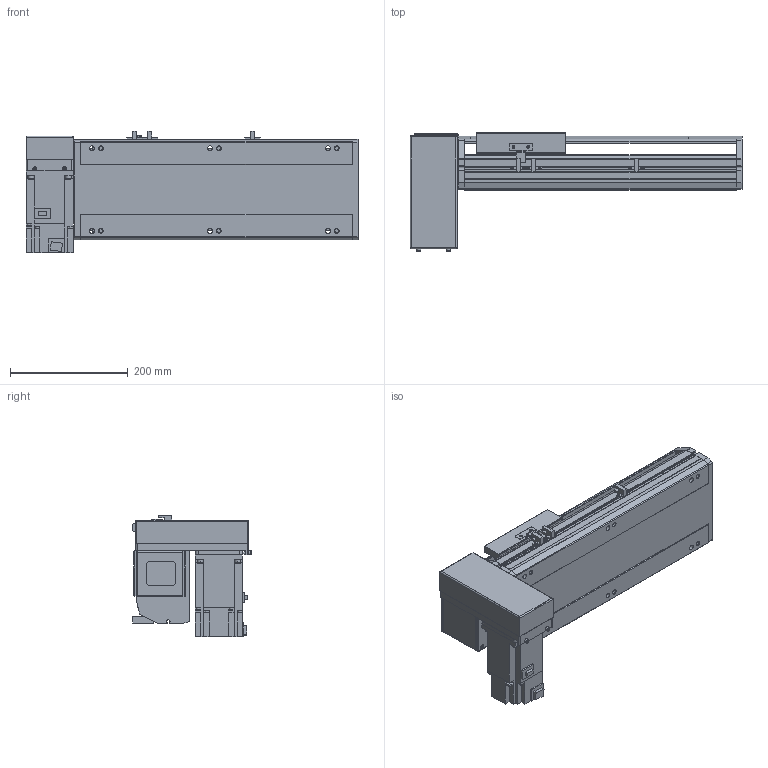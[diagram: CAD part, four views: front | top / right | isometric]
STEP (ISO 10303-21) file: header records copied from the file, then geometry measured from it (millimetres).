
FILE_DESCRIPTION(/* description */ ('STEP AP214'),/* implementation_level */ '2;1');
FILE_NAME(/* name */ 'PBS170-P40-S200-RD-T75-C1-N(0)',/* time_stamp */ '2022-06-08T07:34:03+02:00',/* author */ ('License CC BY-ND 4.0'),/* organization */ ('CADENAS'),/* preprocessor_version */ 'ST-DEVELOPER v18.102',/* originating_system */ 'PARTsolutions',/* authorisation */ ' ');
FILE_SCHEMA (('AUTOMOTIVE_DESIGN {1 0 10303 214 3 1 1}'));
Length unit declared in the file: millimetre
Products named in the file (7): PBS170-P40-S200-RD-T75-C1-N(0); PBS170_sensor; PBS170_plant; PBS170_sliser; T75-p1; PBS170T-RD_motors; PBS170-S200()_body
Assembly tree (8 placements, depth 2):
  PBS170-P40-S200-RD-T75-C1-N(0)
    PBS170_sensor  x3
    PBS170_plant
    PBS170_sliser
    T75-p1
    PBS170T-RD_motors
    PBS170-S200()_body
Bounding box: 563 x 201 x 205.3 mm (x, y, z)
Volume: 5292425.6 mm3; surface area: 751561.9 mm2
Topology: 8 solids, 8 shells, 1002 faces, 2675 edges, 1744 vertices
Faces by surface type: plane 657, cylinder 299, cone 36, sphere 8, torus 2
Full cylindrical faces by diameter (mm): 3.242 x4, 4 x2, 4.4 x4, 4.5 x6, 4.917 x4, 6 x9, 6.647 x14, 7 x2, 7.5 x4, 8 x8, 8.5 x6, 10 x4, 10.5 x6, 11 x2, 30 x2, 40 x1, 70 x1
Entity records: 28828 total; most frequent: CARTESIAN_POINT 5153, DIRECTION 4950, ORIENTED_EDGE 4728, EDGE_CURVE 2364, AXIS2_PLACEMENT_3D 1687, VERTEX_POINT 1610, LINE 1576, VECTOR 1576
